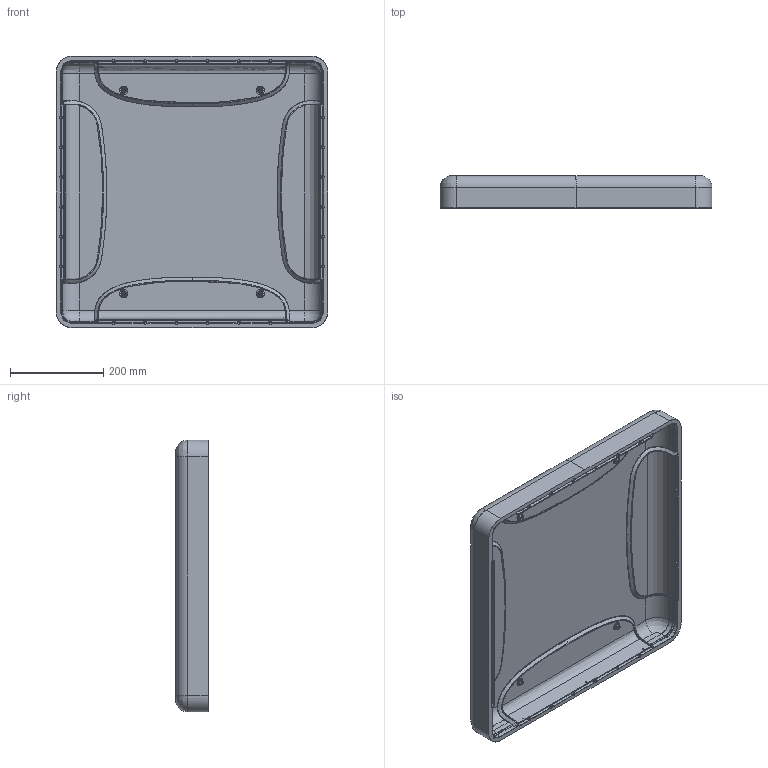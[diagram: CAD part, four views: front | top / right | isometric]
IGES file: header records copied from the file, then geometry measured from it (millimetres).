
Start section: SolidWorks IGES file using analytic representation for surfaces
Global section: file name: Z:\Share\NANUK\Solidworks\3D\Cases\968\4 - 3D FILES\4 - INNER SURFACES\968_Top_INNER_SURFACE_IGES.IGS; native system: SolidWorks 2018; preprocessor: SolidWorks 2018; author: scharria; date: 200218.141808; units: inch
Bounding box: 581.86 x 69.34 x 581.86 mm (x, y, z)
Surface area: 924803.8 mm2 (no closed solid volume)
Topology: 0 solids, 0 shells, 1800 faces, 20651 edges, 20497 vertices
Faces by surface type: bspline 1362, revolution 438
